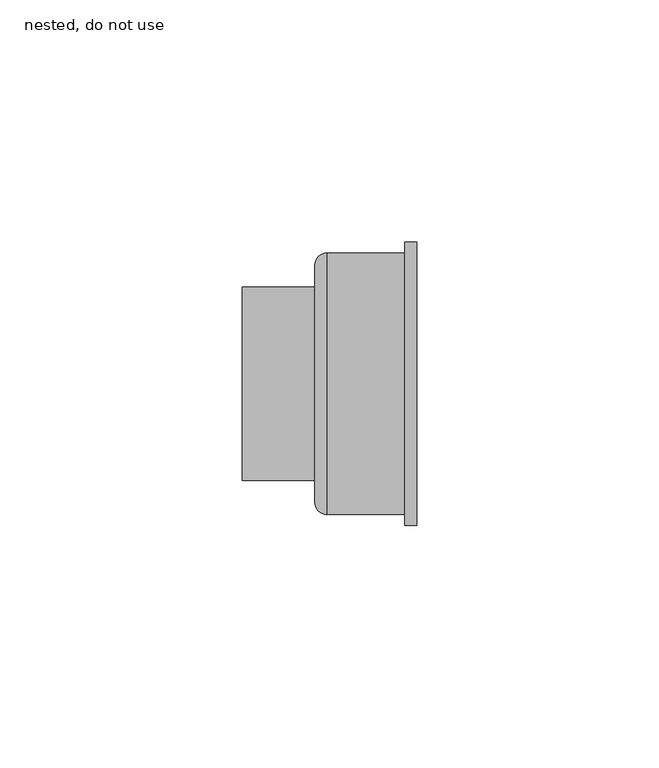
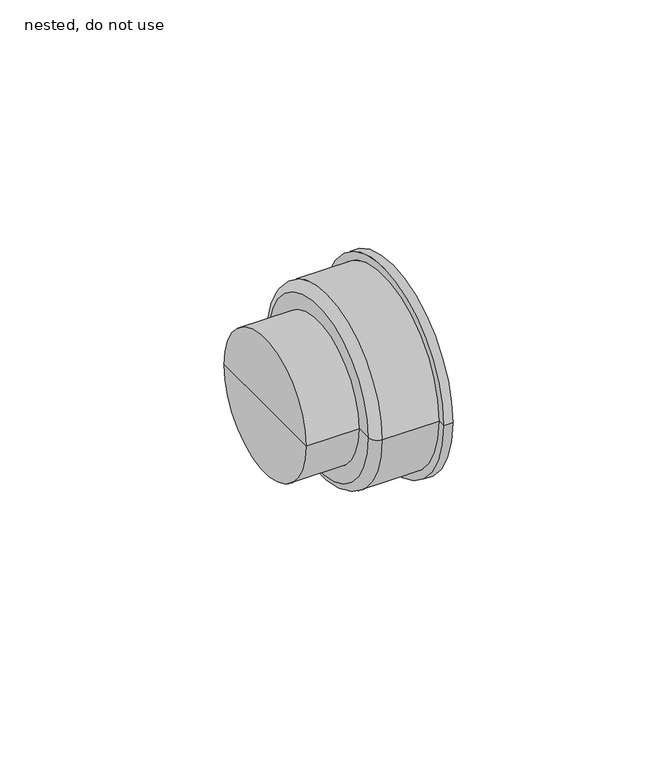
"""IFC4 building model written with IfcOpenShell, lengths in millimetres: pipe fitting geometry, NLRS_52_PIF_UN_HDPE screw flange -SH_Akatherm : nested, do not use."""

from ifc_helpers import new_model, si_unit, point, frame, origin, place, context, project, spatial, circle_curve, ellipse_curve, trimmed, source, transform, mapped, element, save
from ifc_brep_helpers import plane_surface, cylinder_surface, revolved_surface, advanced_brep


def nested_do_not_use_4f358614(model_context):
    return source(origin(), model_context, "Body", "AdvancedBrep", [
        advanced_brep(
        [(-18.0, 0.0, 0.0), (-18.0, 20.0, 0.0), (-18.0, -20.0, 0.0), (18.0, -29.25, 0.0), (18.0, 29.25, 0.0), (18.0, 0.0, 0.0), (15.5, -29.25, 0.0), (15.5, 29.25, 0.0), (15.5, -27.0, 0.0), (15.5, 27.0, 0.0), (-0.5, -27.0, 0.0), (-0.5, 27.0, 0.0), (-3.0, -24.5, 0.0), (-3.0, 24.5, 0.0), (-3.0, -20.0, 0.0), (-3.0, 20.0, 0.0)],
        [
            (0, 1),
            (1, 2, circle_curve(frame((-18.0, 0.0, 0.0), z_axis=(-1.0, 0.0, 0.0), x_axis=(0.0, 1.0, 0.0)), 20.0)),
            (2, 0),
            (2, 1, circle_curve(frame((-18.0, 0.0, 0.0), z_axis=(-1.0, 0.0, 0.0), x_axis=(0.0, 1.0, 0.0)), 20.0)),
            (3, 4, circle_curve(frame((18.0, 0.0, 0.0), z_axis=(1.0, 0.0, 0.0), x_axis=(0.0, 1.0, 0.0)), 29.25)),
            (4, 5),
            (5, 3),
            (4, 3, circle_curve(frame((18.0, 0.0, 0.0), z_axis=(1.0, 0.0, 0.0), x_axis=(0.0, 1.0, 0.0)), 29.25)),
            (6, 7, circle_curve(frame((15.5, 0.0, 0.0), z_axis=(1.0, 0.0, 0.0), x_axis=(0.0, 1.0, 0.0)), 29.25)),
            (7, 4),
            (3, 6),
            (7, 6, circle_curve(frame((15.5, 0.0, 0.0), z_axis=(1.0, 0.0, 0.0), x_axis=(0.0, 1.0, 0.0)), 29.25)),
            (8, 9, circle_curve(frame((15.5, 0.0, 0.0), z_axis=(1.0, 0.0, 0.0), x_axis=(0.0, 1.0, 0.0)), 27.0)),
            (9, 7),
            (6, 8),
            (9, 8, circle_curve(frame((15.5, 0.0, 0.0), z_axis=(1.0, 0.0, 0.0), x_axis=(0.0, 1.0, 0.0)), 27.0)),
            (10, 11, circle_curve(frame((-0.5, 0.0, 0.0), z_axis=(1.0, 0.0, 0.0), x_axis=(0.0, 1.0, 0.0)), 27.0)),
            (11, 9),
            (8, 10),
            (11, 10, circle_curve(frame((-0.5, 0.0, 0.0), z_axis=(1.0, 0.0, 0.0), x_axis=(0.0, 1.0, 0.0)), 27.0)),
            (12, 13, circle_curve(frame((-3.0, 0.0, 0.0), z_axis=(1.0, 0.0, 0.0), x_axis=(0.0, 1.0, 0.0)), 24.5)),
            (13, 11, circle_curve(frame((-0.5, 24.5, 0.0), z_axis=(0.0, 0.0, -1.0), x_axis=(1.0, 0.0, 0.0)), 2.5)),
            (10, 12, circle_curve(frame((-0.5, -24.5, 0.0), z_axis=(0.0, 0.0, -1.0), x_axis=(1.0, 0.0, 0.0)), 2.5)),
            (13, 12, circle_curve(frame((-3.0, 0.0, 0.0), z_axis=(1.0, 0.0, 0.0), x_axis=(0.0, 1.0, 0.0)), 24.5)),
            (14, 15, circle_curve(frame((-3.0, 0.0, 0.0), z_axis=(1.0, 0.0, 0.0), x_axis=(0.0, 1.0, 0.0)), 20.0)),
            (15, 13),
            (12, 14),
            (15, 14, circle_curve(frame((-3.0, 0.0, 0.0), z_axis=(1.0, 0.0, 0.0), x_axis=(0.0, 1.0, 0.0)), 20.0)),
            (1, 15),
            (14, 2),
        ],
        [
            plane_surface(frame((-18.0, 0.0, 0.0), z_axis=(-1.0, 0.0, 0.0), x_axis=(0.0, 1.0, 0.0))),
            plane_surface(frame((18.0, 0.0, 0.0), z_axis=(1.0, 0.0, 0.0), x_axis=(0.0, 1.0, 0.0))),
            cylinder_surface(frame((110.0, 0.0, 0.0), z_axis=(-1.0, 0.0, 0.0), x_axis=(0.0, 1.0, 0.0)), 29.25),
            plane_surface(frame((15.5, 0.0, 0.0), z_axis=(-1.0, 0.0, 0.0), x_axis=(0.0, 1.0, 0.0))),
            cylinder_surface(frame((110.0, 0.0, 0.0), z_axis=(-1.0, 0.0, 0.0), x_axis=(0.0, 1.0, 0.0)), 27.0),
            revolved_surface(trimmed(ellipse_curve(frame((-0.5, 24.5, 0.0), z_axis=(0.0, 0.0, 1.0), x_axis=(1.0, 0.0, 0.0)), 2.5, 2.5), [point((-0.5, 27.0, 0.0))], [point((-3.0, 24.5, 0.0))], True, "CARTESIAN"), (110.0, 0.0, 0.0), (-1.0, 0.0, 0.0)),
            plane_surface(frame((-3.0, 0.0, 0.0), z_axis=(-1.0, 0.0, 0.0), x_axis=(0.0, 1.0, 0.0))),
            cylinder_surface(frame((110.0, 0.0, 0.0), z_axis=(-1.0, 0.0, 0.0), x_axis=(0.0, 1.0, 0.0)), 20.0),
        ],
        [
            (0, [[1, 2, 3]]),
            (0, [[-3, 4, -1]]),
            (1, [[5, 6, 7]]),
            (1, [[8, -7, -6]]),
            (2, [[9, 10, -5, 11]]),
            (2, [[12, -11, -8, -10]]),
            (3, [[13, 14, -9, 15]]),
            (3, [[16, -15, -12, -14]]),
            (4, [[17, 18, -13, 19]]),
            (4, [[20, -19, -16, -18]]),
            (5, [[21, 22, -17, 23]]),
            (5, [[24, -23, -20, -22]]),
            (6, [[25, 26, -21, 27]]),
            (6, [[28, -27, -24, -26]]),
            (7, [[-2, 29, -25, 30]]),
            (7, [[-4, -30, -28, -29]]),
        ],
    ),
    ])


if __name__ == "__main__":
    model = new_model("IFC4")
    model_context = context("Model", 3, world=origin())
    ifc_project = project(units=[si_unit("LENGTHUNIT", "METRE", prefix="MILLI")], contexts=[model_context])
    site = spatial("IfcSite", under=ifc_project)
    building = spatial("IfcBuilding", under=site)
    placement = place(None, origin())
    nested_do_not_use_shape = nested_do_not_use_4f358614(model_context)
    element("IfcPipeFitting", 1, ObjectType="NLRS_52_PIF_UN_HDPE screw flange -SH_Akatherm : nested, do not use", at=placement, inside=building, context=model_context, shape_type="MappedRepresentation", body=[
        mapped(nested_do_not_use_shape, transform((0.0, 0.0, 0.0), x_axis=(1.0, 0.0, 0.0), y_axis=(0.0, 1.0, 0.0), z_axis=(0.0, 0.0, 1.0))),
    ])
    save(model, "model.ifc")
